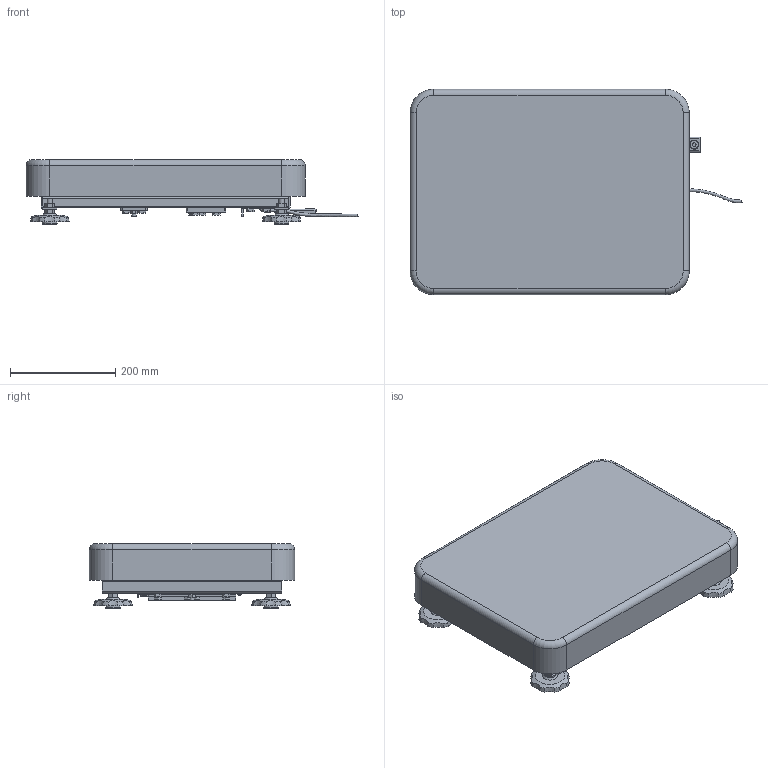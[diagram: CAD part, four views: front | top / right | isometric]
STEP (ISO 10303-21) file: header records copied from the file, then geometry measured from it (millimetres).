
FILE_DESCRIPTION(/* description */ ('Unknown'),/* implementation_level */ '2;1');
FILE_NAME(/* name */ 'SCB-18',/* time_stamp */ '2024-04-04T16:10:29+09:00',/* author */ ('Unknown'),/* organization */ ('Unknown'),/* preprocessor_version */ 'ST-DEVELOPER v16.7',/* originating_system */ 'DEX',/* authorisation */ $);
FILE_SCHEMA (('AUTOMOTIVE_DESIGN {1 0 10303 214 3 1 1}'));
Length unit declared in the file: millimetre
Products named in the file (3): SCB-18; 1
Assembly tree (5 placements, depth 2):
  SCB-18
    SCB-18
    1  x4
Bounding box: 630.17 x 390 x 123 mm (x, y, z)
Volume: 15681960 mm3; surface area: 801602.8 mm2
Topology: 5 solids, 5 shells, 611 faces, 1567 edges, 1014 vertices
Faces by surface type: plane 371, cone 125, cylinder 97, torus 12, sphere 4, bspline 2
Full cylindrical faces by diameter (mm): 7 x1, 7.6 x4, 8 x2, 8.5 x4, 9 x4, 10 x4, 11 x4, 13.8 x1, 17 x1, 28 x4
Entity records: 18528 total; most frequent: CARTESIAN_POINT 3508, ORIENTED_EDGE 2374, DIRECTION 2356, EDGE_CURVE 1187, LINE 864, VECTOR 864, VERTEX_POINT 792, AXIS2_PLACEMENT_3D 746
